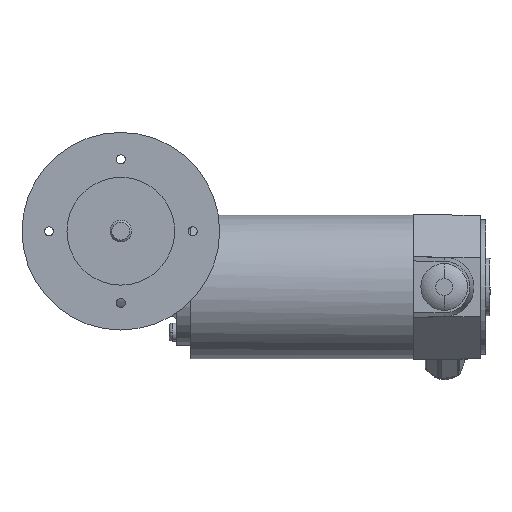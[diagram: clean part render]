
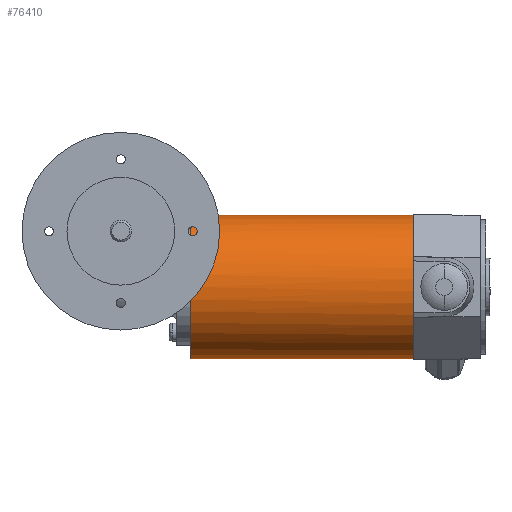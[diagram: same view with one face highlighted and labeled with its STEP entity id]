
A CAD part, top view. The second image highlights one B-rep face of the part: STEP entity #76410.
In plain terms, the highlighted cylindrical face has radius 40 mm (diameter 80 mm), a partial arc.
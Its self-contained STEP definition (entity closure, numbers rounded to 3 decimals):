
#5680=CARTESIAN_POINT('',(-51.849,455.,
19.808));
#5690=DIRECTION('',(-0.026,0.,
1.));
#5700=DIRECTION('',(1.,0.,
0.026));
#5710=AXIS2_PLACEMENT_3D('',#5680,#5690,#5700);
#5720=CIRCLE('',#5710,40.);
#5730=CARTESIAN_POINT('',(-11.863,455.,
20.855));
#5740=VERTEX_POINT('',#5730);
#5750=CARTESIAN_POINT('',(-91.835,455.,
18.761));
#5760=VERTEX_POINT('',#5750);
#5770=EDGE_CURVE('',#5740,#5760,#5720,.T.);
#36770=CARTESIAN_POINT('',(-48.603,455.,
-104.15));
#36780=DIRECTION('',(-0.026,0.,
1.));
#36790=DIRECTION('',(1.,0.,
0.026));
#36800=AXIS2_PLACEMENT_3D('',#36770,#36780,#36790);
#36810=CIRCLE('',#36800,40.);
#36820=CARTESIAN_POINT('',(-59.452,493.5,
-104.434));
#36830=VERTEX_POINT('',#36820);
#36840=CARTESIAN_POINT('',(-88.589,455.,
-105.197));
#36850=VERTEX_POINT('',#36840);
#36860=EDGE_CURVE('',#36830,#36850,#36810,.T.);
#36880=CARTESIAN_POINT('',(-8.617,455.,
-103.102));
#36890=VERTEX_POINT('',#36880);
#36920=EDGE_CURVE('',#36890,#36830,#36810,.T.);
#38460=CARTESIAN_POINT('',(-48.603,455.,
-104.15));
#38470=DIRECTION('',(-0.026,0.,
1.));
#38480=DIRECTION('',(1.,0.,
0.026));
#38490=AXIS2_PLACEMENT_3D('',#38460,#38470,#38480);
#38500=CYLINDRICAL_SURFACE('',#38490,40.);
#38510=CARTESIAN_POINT('',(-8.617,455.,
-103.102));
#38520=DIRECTION('',(-0.026,0.,
1.));
#38530=VECTOR('',#38520,1.);
#38540=LINE('',#38510,#38530);
#38550=EDGE_CURVE('',#36890,#5740,#38540,.T.);
#38580=CARTESIAN_POINT('',(-88.589,455.,
-105.197));
#38590=DIRECTION('',(-0.026,0.,
1.));
#38600=VECTOR('',#38590,1.);
#38610=LINE('',#38580,#38600);
#38620=EDGE_CURVE('',#36850,#5760,#38610,.T.);
#76340=ORIENTED_EDGE('',*,*,#38550,.F.);
#76350=ORIENTED_EDGE('',*,*,#5770,.F.);
#76360=ORIENTED_EDGE('',*,*,#38620,.T.);
#76370=ORIENTED_EDGE('',*,*,#36860,.T.);
#76380=ORIENTED_EDGE('',*,*,#36920,.T.);
#76390=EDGE_LOOP('',(#76380,#76370,#76360,#76350,#76340));
#76400=FACE_OUTER_BOUND('',#76390,.T.);
#76410=ADVANCED_FACE('',(#76400),#38500,.T.);
